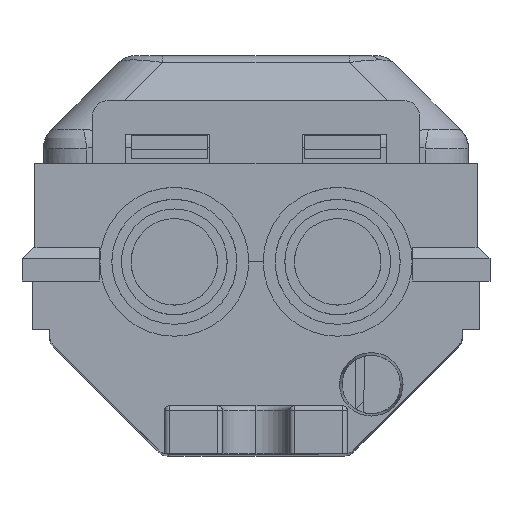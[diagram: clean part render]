
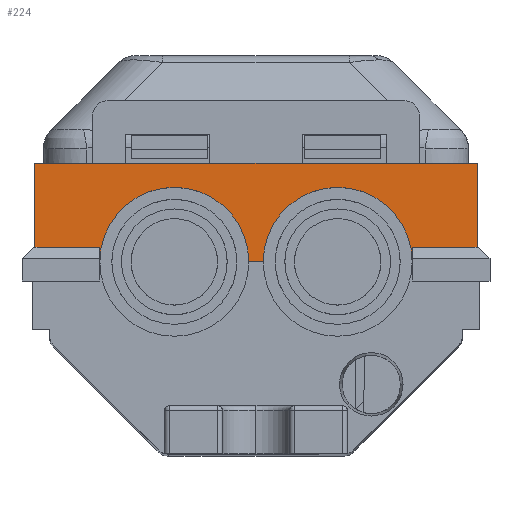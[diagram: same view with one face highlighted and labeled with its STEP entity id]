
A CAD part, top view. The second image highlights one B-rep face of the part: STEP entity #224.
In plain terms, the highlighted planar face has unit normal (0, 0, 1).
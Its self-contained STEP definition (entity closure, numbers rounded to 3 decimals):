
#44 = CARTESIAN_POINT ( 'NONE',  ( 23., 30.25, 53.9 ) ) ;
#224 = ADVANCED_FACE ( 'NONE', ( #626 ), #3988, .F. ) ;
#248 = VERTEX_POINT ( 'NONE', #11295 ) ;
#276 = EDGE_LOOP ( 'NONE', ( #5247, #4066, #9958, #1211, #2631, #2470, #10290, #379, #7124, #10456 ) ) ;
#379 = ORIENTED_EDGE ( 'NONE', *, *, #4869, .T. ) ;
#405 = VECTOR ( 'NONE', #10882, 1000. ) ;
#626 = FACE_OUTER_BOUND ( 'NONE', #276, .T. ) ;
#629 = CARTESIAN_POINT ( 'NONE',  ( -23., 30.25, 53.9 ) ) ;
#697 = VERTEX_POINT ( 'NONE', #6783 ) ;
#1171 = VECTOR ( 'NONE', #10287, 1000. ) ;
#1207 = CARTESIAN_POINT ( 'NONE',  ( 8.5, 20., 53.9 ) ) ;
#1211 = ORIENTED_EDGE ( 'NONE', *, *, #7362, .T. ) ;
#1317 = DIRECTION ( 'NONE',  ( 0., 0., -1. ) ) ;
#1338 = EDGE_CURVE ( 'NONE', #248, #9081, #4587, .T. ) ;
#1850 = LINE ( 'NONE', #4270, #8388 ) ;
#2229 = LINE ( 'NONE', #6661, #2521 ) ;
#2470 = ORIENTED_EDGE ( 'NONE', *, *, #9817, .F. ) ;
#2521 = VECTOR ( 'NONE', #7606, 1000. ) ;
#2631 = ORIENTED_EDGE ( 'NONE', *, *, #6480, .T. ) ;
#2912 = EDGE_CURVE ( 'NONE', #10124, #248, #1850, .T. ) ;
#2984 = EDGE_CURVE ( 'NONE', #697, #8478, #5333, .T. ) ;
#3033 = DIRECTION ( 'NONE',  ( 1., 0., 0. ) ) ;
#3084 = AXIS2_PLACEMENT_3D ( 'NONE', #1207, #10085, #5954 ) ;
#3162 = AXIS2_PLACEMENT_3D ( 'NONE', #8515, #5046, #3033 ) ;
#3220 = CARTESIAN_POINT ( 'NONE',  ( 0.75, 20., 53.9 ) ) ;
#3284 = CARTESIAN_POINT ( 'NONE',  ( -23., 21.5, 53.9 ) ) ;
#3672 = LINE ( 'NONE', #10930, #5841 ) ;
#3988 = PLANE ( 'NONE',  #3084 ) ;
#4066 = ORIENTED_EDGE ( 'NONE', *, *, #2912, .T. ) ;
#4270 = CARTESIAN_POINT ( 'NONE',  ( -16.25, 21.5, 53.9 ) ) ;
#4465 = DIRECTION ( 'NONE',  ( 0., -1., 0. ) ) ;
#4587 = CIRCLE ( 'NONE', #3162, 7.75 ) ;
#4615 = EDGE_CURVE ( 'NONE', #10173, #5205, #9770, .T. ) ;
#4657 = CIRCLE ( 'NONE', #7756, 7.75 ) ;
#4748 = LINE ( 'NONE', #10021, #5338 ) ;
#4758 = EDGE_CURVE ( 'NONE', #9567, #10124, #3672, .T. ) ;
#4816 = DIRECTION ( 'NONE',  ( -1., 0., 0. ) ) ;
#4860 = CARTESIAN_POINT ( 'NONE',  ( 16.25, 21.5, 53.9 ) ) ;
#4869 = EDGE_CURVE ( 'NONE', #8478, #10173, #2229, .T. ) ;
#4901 = CARTESIAN_POINT ( 'NONE',  ( 23., 30.25, 53.9 ) ) ;
#5046 = DIRECTION ( 'NONE',  ( 0., 0., -1. ) ) ;
#5122 = CARTESIAN_POINT ( 'NONE',  ( 16.25, 20., 53.9 ) ) ;
#5190 = DIRECTION ( 'NONE',  ( 0., -1., 0. ) ) ;
#5205 = VERTEX_POINT ( 'NONE', #629 ) ;
#5247 = ORIENTED_EDGE ( 'NONE', *, *, #4758, .T. ) ;
#5281 = CARTESIAN_POINT ( 'NONE',  ( -0.75, 20., 53.9 ) ) ;
#5333 = LINE ( 'NONE', #9941, #405 ) ;
#5338 = VECTOR ( 'NONE', #4465, 1000. ) ;
#5550 = VERTEX_POINT ( 'NONE', #5122 ) ;
#5594 = CARTESIAN_POINT ( 'NONE',  ( -16.25, 21.5, 53.9 ) ) ;
#5731 = VECTOR ( 'NONE', #11362, 1000. ) ;
#5841 = VECTOR ( 'NONE', #11866, 1000. ) ;
#5954 = DIRECTION ( 'NONE',  ( -1., 0., 0. ) ) ;
#6480 = EDGE_CURVE ( 'NONE', #11653, #5550, #4657, .T. ) ;
#6661 = CARTESIAN_POINT ( 'NONE',  ( 23., 20., 53.9 ) ) ;
#6783 = CARTESIAN_POINT ( 'NONE',  ( 16.25, 21.5, 53.9 ) ) ;
#6863 = CARTESIAN_POINT ( 'NONE',  ( 8.5, 20., 53.9 ) ) ;
#7124 = ORIENTED_EDGE ( 'NONE', *, *, #4615, .T. ) ;
#7362 = EDGE_CURVE ( 'NONE', #9081, #11653, #8853, .T. ) ;
#7578 = CARTESIAN_POINT ( 'NONE',  ( -0.75, 20., 53.9 ) ) ;
#7606 = DIRECTION ( 'NONE',  ( 0., 1., 0. ) ) ;
#7608 = VECTOR ( 'NONE', #4816, 1000. ) ;
#7756 = AXIS2_PLACEMENT_3D ( 'NONE', #6863, #1317, #7807 ) ;
#7807 = DIRECTION ( 'NONE',  ( -1., 0., 0. ) ) ;
#7924 = CARTESIAN_POINT ( 'NONE',  ( 23., 21.5, 53.9 ) ) ;
#8388 = VECTOR ( 'NONE', #5190, 1000. ) ;
#8478 = VERTEX_POINT ( 'NONE', #7924 ) ;
#8515 = CARTESIAN_POINT ( 'NONE',  ( -8.5, 20., 53.9 ) ) ;
#8607 = EDGE_CURVE ( 'NONE', #5205, #9567, #4748, .T. ) ;
#8853 = LINE ( 'NONE', #7578, #1171 ) ;
#9081 = VERTEX_POINT ( 'NONE', #5281 ) ;
#9567 = VERTEX_POINT ( 'NONE', #3284 ) ;
#9770 = LINE ( 'NONE', #4901, #7608 ) ;
#9817 = EDGE_CURVE ( 'NONE', #697, #5550, #10680, .T. ) ;
#9941 = CARTESIAN_POINT ( 'NONE',  ( 23., 21.5, 53.9 ) ) ;
#9958 = ORIENTED_EDGE ( 'NONE', *, *, #1338, .T. ) ;
#10021 = CARTESIAN_POINT ( 'NONE',  ( -23., 20., 53.9 ) ) ;
#10085 = DIRECTION ( 'NONE',  ( 0., 0., -1. ) ) ;
#10124 = VERTEX_POINT ( 'NONE', #5594 ) ;
#10173 = VERTEX_POINT ( 'NONE', #44 ) ;
#10287 = DIRECTION ( 'NONE',  ( 1., 0., 0. ) ) ;
#10290 = ORIENTED_EDGE ( 'NONE', *, *, #2984, .T. ) ;
#10456 = ORIENTED_EDGE ( 'NONE', *, *, #8607, .T. ) ;
#10680 = LINE ( 'NONE', #4860, #5731 ) ;
#10882 = DIRECTION ( 'NONE',  ( 1., 0., 0. ) ) ;
#10930 = CARTESIAN_POINT ( 'NONE',  ( -23., 21.5, 53.9 ) ) ;
#11295 = CARTESIAN_POINT ( 'NONE',  ( -16.25, 20., 53.9 ) ) ;
#11362 = DIRECTION ( 'NONE',  ( 0., -1., 0. ) ) ;
#11653 = VERTEX_POINT ( 'NONE', #3220 ) ;
#11866 = DIRECTION ( 'NONE',  ( 1., 0., 0. ) ) ;
